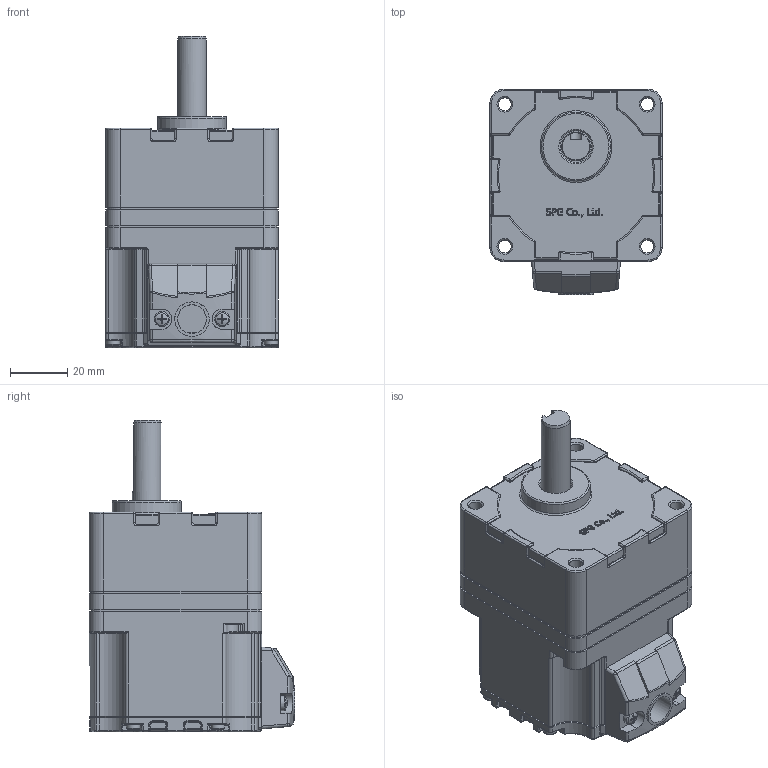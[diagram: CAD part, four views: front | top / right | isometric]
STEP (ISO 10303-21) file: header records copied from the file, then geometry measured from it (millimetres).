
FILE_DESCRIPTION((''),'2;1');
FILE_NAME('C:\Documents and Settings\Administrator\바탕 화면\BLDC 3D FILE\GEARED MOTOR\60-RATIO 5~20.stp','2014-06-19T16:05:05',('kdhkdh'),(''),'Autodesk Inventor 2011','Autodesk Inventor 2011','');
FILE_SCHEMA(('AUTOMOTIVE_DESIGN { 1 0 10303 214 1 1 1 1 }'));
Length unit declared in the file: millimetre
Products named in the file (1): 부품1
Bounding box: 60 x 71.5 x 108.5 mm (x, y, z)
Volume: 256129.2 mm3; surface area: 43820.3 mm2
Topology: 1 solids, 11 shells, 1282 faces, 3182 edges, 1908 vertices
Faces by surface type: cylinder 421, plane 375, bspline 176, torus 161, cone 97, sphere 52
Full cylindrical faces by diameter (mm): 2.256 x4, 2.5 x4, 2.6 x10, 2.729 x2, 2.8 x4, 3 x6, 3.5 x2, 4.5 x8, 4.7 x4, 4.76 x1, 5 x8, 5.3 x2, 5.7 x1, 6 x1, 10 x2, 11 x1, 12 x1, 14 x1, 24 x1, 46 x1, 54 x1, 57.5 x2
Entity records: 40044 total; most frequent: CARTESIAN_POINT 11103, DIRECTION 6030, ORIENTED_EDGE 5876, EDGE_CURVE 2938, AXIS2_PLACEMENT_3D 2405, VERTEX_POINT 1853, EDGE_LOOP 1478, FACE_OUTER_BOUND 1282
